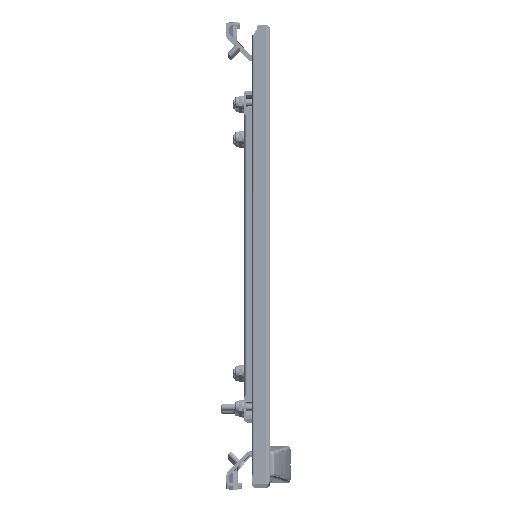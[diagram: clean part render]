
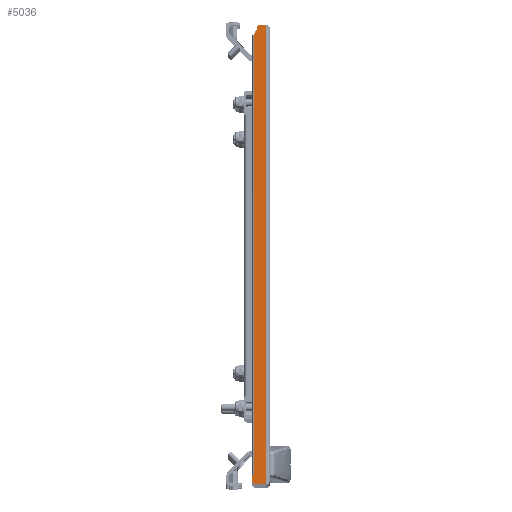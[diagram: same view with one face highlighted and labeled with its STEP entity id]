
A CAD part, top view. The second image highlights one B-rep face of the part: STEP entity #5036.
In plain terms, the highlighted planar face has unit normal (0, 0, 1).
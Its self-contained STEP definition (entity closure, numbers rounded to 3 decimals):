
#5036=ADVANCED_FACE('',(#12339),#12341,.T.);
#12339=FACE_BOUND('',#12340,.T.);
#12340=EDGE_LOOP('',(#32081,#32082,#32083,#32084,#32085,#32086,#32087,#32088,#32089));
#12341=PLANE('',#12342);
#12342=AXIS2_PLACEMENT_3D('',#12343,#12344,#12345);
#12343=CARTESIAN_POINT('',(-13.5,-193.2,885.5));
#12344=DIRECTION('',(0.,0.,1.));
#12345=DIRECTION('',(1.,0.,0.));
#32081=ORIENTED_EDGE('',*,*,#39118,.T.);
#32082=ORIENTED_EDGE('',*,*,#39119,.F.);
#32083=ORIENTED_EDGE('',*,*,#39120,.T.);
#32084=ORIENTED_EDGE('',*,*,#39111,.T.);
#32085=ORIENTED_EDGE('',*,*,#39071,.T.);
#32086=ORIENTED_EDGE('',*,*,#39117,.F.);
#32087=ORIENTED_EDGE('',*,*,#39093,.T.);
#32088=ORIENTED_EDGE('',*,*,#39108,.T.);
#32089=ORIENTED_EDGE('',*,*,#39121,.T.);
#39071=EDGE_CURVE('',#43578,#43585,#43588,.T.);
#39093=EDGE_CURVE('',#43619,#43617,#43620,.F.);
#39108=EDGE_CURVE('',#43617,#43641,#43643,.F.);
#39111=EDGE_CURVE('',#43644,#43578,#43648,.T.);
#39117=EDGE_CURVE('',#43619,#43585,#43657,.T.);
#39118=EDGE_CURVE('',#43658,#43659,#43660,.T.);
#39119=EDGE_CURVE('',#43661,#43659,#43662,.T.);
#39120=EDGE_CURVE('',#43661,#43644,#43663,.F.);
#39121=EDGE_CURVE('',#43641,#43658,#43664,.T.);
#43578=VERTEX_POINT('',#52107);
#43585=VERTEX_POINT('',#52127);
#43588=LINE('',#52135,#52136);
#43617=VERTEX_POINT('',#52212);
#43619=VERTEX_POINT('',#52216);
#43620=CIRCLE('',#52217,1.55);
#43641=VERTEX_POINT('',#52274);
#43643=LINE('',#52278,#52279);
#43644=VERTEX_POINT('',#52281);
#43648=LINE('',#52289,#52290);
#43657=LINE('',#52311,#52312);
#43658=VERTEX_POINT('',#52314);
#43659=VERTEX_POINT('',#52315);
#43660=LINE('',#52316,#52317);
#43661=VERTEX_POINT('',#52319);
#43662=LINE('',#52320,#52321);
#43663=CIRCLE('',#52323,2.8);
#43664=LINE('',#52327,#52328);
#52107=CARTESIAN_POINT('',(-1.3,-196.,885.5));
#52127=CARTESIAN_POINT('',(-1.3,196.,885.5));
#52135=CARTESIAN_POINT('',(-1.3,-196.,885.5));
#52136=VECTOR('',#52137,1.);
#52137=DIRECTION('',(0.,1.,0.));
#52212=CARTESIAN_POINT('',(-9.226,193.57,885.5));
#52216=CARTESIAN_POINT('',(-7.95,196.,885.5));
#52217=AXIS2_PLACEMENT_3D('',#52218,#52219,#52220);
#52218=CARTESIAN_POINT('',(-7.95,194.45,885.5));
#52219=DIRECTION('',(0.,0.,-1.));
#52220=DIRECTION('',(-0.823,-0.568,0.));
#52274=CARTESIAN_POINT('',(-11.95,187.859,885.5));
#52278=CARTESIAN_POINT('',(-11.95,187.859,885.5));
#52279=VECTOR('',#52280,1.);
#52280=DIRECTION('',(0.431,0.903,0.));
#52281=CARTESIAN_POINT('',(-10.7,-196.,885.5));
#52289=CARTESIAN_POINT('',(-10.7,-196.,885.5));
#52290=VECTOR('',#52291,1.);
#52291=DIRECTION('',(1.,0.,0.));
#52311=CARTESIAN_POINT('',(-7.95,196.,885.5));
#52312=VECTOR('',#52313,1.);
#52313=DIRECTION('',(1.,0.,0.));
#52314=CARTESIAN_POINT('',(-11.95,-188.,885.5));
#52315=CARTESIAN_POINT('',(-13.5,-188.,885.5));
#52316=CARTESIAN_POINT('',(-11.95,-188.,885.5));
#52317=VECTOR('',#52318,1.);
#52318=DIRECTION('',(-1.,0.,0.));
#52319=CARTESIAN_POINT('',(-13.5,-193.2,885.5));
#52320=CARTESIAN_POINT('',(-13.5,-193.2,885.5));
#52321=VECTOR('',#52322,1.);
#52322=DIRECTION('',(0.,1.,0.));
#52323=AXIS2_PLACEMENT_3D('',#52324,#52325,#52326);
#52324=CARTESIAN_POINT('',(-10.7,-193.2,885.5));
#52325=DIRECTION('',(0.,0.,-1.));
#52326=DIRECTION('',(0.,-1.,0.));
#52327=CARTESIAN_POINT('',(-11.95,187.859,885.5));
#52328=VECTOR('',#52329,1.);
#52329=DIRECTION('',(0.,-1.,0.));
